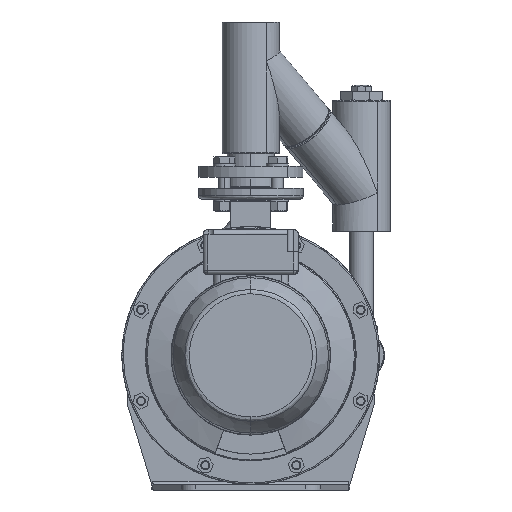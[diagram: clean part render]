
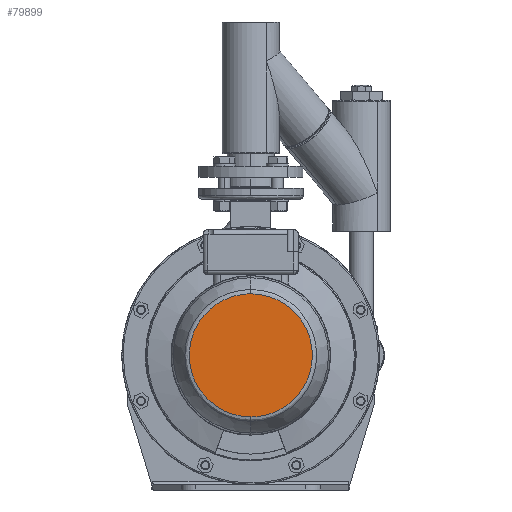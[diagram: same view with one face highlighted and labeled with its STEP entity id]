
A CAD part, front view. The second image highlights one B-rep face of the part: STEP entity #79899.
In plain terms, the highlighted planar face has unit normal (0, -1, 0).
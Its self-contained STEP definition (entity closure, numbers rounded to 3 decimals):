
#27407 = CARTESIAN_POINT ( 'NONE',  ( -154.478, -690.624, 107.337 ) ) ;
#50055 = CARTESIAN_POINT ( 'NONE',  ( -154.478, -690.624, -57.337 ) ) ;
#50056 = CARTESIAN_POINT ( 'NONE',  ( 10.196, -690.624, -57.337 ) ) ;
#50057 = CARTESIAN_POINT ( 'NONE',  ( 10.196, -690.624, 107.337 ) ) ;
#50058 = CARTESIAN_POINT ( 'NONE',  ( -154.478, -690.624, 107.337 ) ) ;
#50060 =( BOUNDED_CURVE ( )  B_SPLINE_CURVE ( 3, ( #50058, #50057, #50056, #50055 ),
 .UNSPECIFIED., .F., .T. ) 
 B_SPLINE_CURVE_WITH_KNOTS ( ( 4, 4 ),
 ( 0., 1. ),
 .UNSPECIFIED. ) 
 CURVE ( )  GEOMETRIC_REPRESENTATION_ITEM ( )  RATIONAL_B_SPLINE_CURVE ( ( 1., 0.333, 0.333, 1. ) ) 
 REPRESENTATION_ITEM ( '' )  );
#50318 = FACE_OUTER_BOUND ( 'NONE', #79435, .T. ) ;
#50327 = PLANE ( 'NONE',  #50334 ) ;
#50334 = AXIS2_PLACEMENT_3D ( 'NONE', #50384, #50383, #50382 ) ;
#50382 = DIRECTION ( 'NONE',  ( 1., 0., 0. ) ) ;
#50383 = DIRECTION ( 'NONE',  ( 0., -1., 0. ) ) ;
#50384 = CARTESIAN_POINT ( 'NONE',  ( -154.478, -690.624, 25. ) ) ;
#67396 = VERTEX_POINT ( 'NONE', #27407 ) ;
#75035 = VERTEX_POINT ( 'NONE', #100622 ) ;
#75163 = EDGE_CURVE ( 'NONE', #75035, #67396, #100733, .T. ) ;
#76004 = ORIENTED_EDGE ( 'NONE', *, *, #79682, .F. ) ;
#76083 = ORIENTED_EDGE ( 'NONE', *, *, #75163, .F. ) ;
#79435 = EDGE_LOOP ( 'NONE', ( #76083, #76004 ) ) ;
#79682 = EDGE_CURVE ( 'NONE', #67396, #75035, #50060, .T. ) ;
#79899 = ADVANCED_FACE ( 'NONE', ( #50318 ), #50327, .T. ) ;
#100622 = CARTESIAN_POINT ( 'NONE',  ( -154.478, -690.624, -57.337 ) ) ;
#100720 = CARTESIAN_POINT ( 'NONE',  ( -154.478, -690.624, 107.337 ) ) ;
#100721 = CARTESIAN_POINT ( 'NONE',  ( -319.153, -690.624, 107.337 ) ) ;
#100723 = CARTESIAN_POINT ( 'NONE',  ( -319.153, -690.624, -57.337 ) ) ;
#100725 = CARTESIAN_POINT ( 'NONE',  ( -154.478, -690.624, -57.337 ) ) ;
#100733 =( BOUNDED_CURVE ( )  B_SPLINE_CURVE ( 3, ( #100725, #100723, #100721, #100720 ),
 .UNSPECIFIED., .F., .T. ) 
 B_SPLINE_CURVE_WITH_KNOTS ( ( 4, 4 ),
 ( 0., 1. ),
 .UNSPECIFIED. ) 
 CURVE ( )  GEOMETRIC_REPRESENTATION_ITEM ( )  RATIONAL_B_SPLINE_CURVE ( ( 1., 0.333, 0.333, 1. ) ) 
 REPRESENTATION_ITEM ( '' )  );
